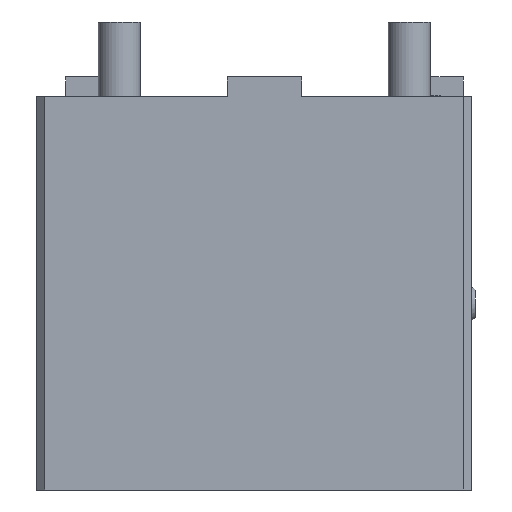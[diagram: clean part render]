
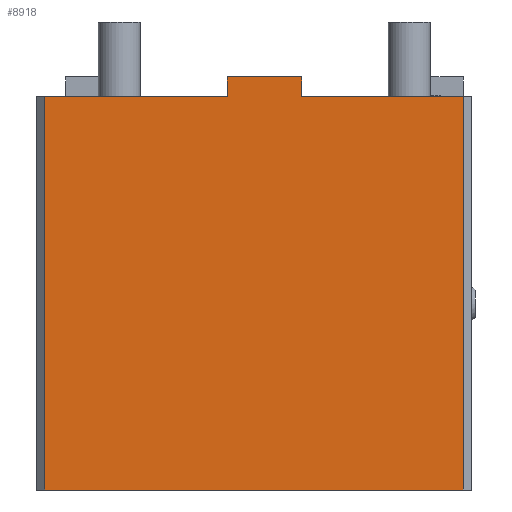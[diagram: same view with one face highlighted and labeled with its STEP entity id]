
A CAD part, front view. The second image highlights one B-rep face of the part: STEP entity #8918.
In plain terms, the highlighted planar face has unit normal (0, -1, 0).
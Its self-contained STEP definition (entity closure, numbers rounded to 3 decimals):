
#4157=ORIENTED_EDGE('',*,*,#5780,.T.);
#4158=ORIENTED_EDGE('',*,*,#5783,.F.);
#4159=ORIENTED_EDGE('',*,*,#5784,.F.);
#4160=ORIENTED_EDGE('',*,*,#5786,.T.);
#4161=ORIENTED_EDGE('',*,*,#5787,.F.);
#4162=ORIENTED_EDGE('',*,*,#5788,.T.);
#4163=ORIENTED_EDGE('',*,*,#5789,.T.);
#4164=ORIENTED_EDGE('',*,*,#5790,.T.);
#4938=VECTOR('',#6700,1.);
#4941=VECTOR('',#6705,1.);
#4942=VECTOR('',#6708,1.);
#4944=VECTOR('',#6712,1.);
#4945=VECTOR('',#6713,1.);
#4946=VECTOR('',#6714,1.);
#4947=VECTOR('',#6715,1.);
#4948=VECTOR('',#6716,1.);
#5222=LINE('',#7605,#4938);
#5225=LINE('',#7610,#4941);
#5226=LINE('',#7613,#4942);
#5228=LINE('',#7617,#4944);
#5229=LINE('',#7619,#4945);
#5230=LINE('',#7621,#4946);
#5231=LINE('',#7623,#4947);
#5232=LINE('',#7624,#4948);
#5505=VERTEX_POINT('',#7602);
#5506=VERTEX_POINT('',#7604);
#5507=VERTEX_POINT('',#7608);
#5508=VERTEX_POINT('',#7612);
#5509=VERTEX_POINT('',#7616);
#5510=VERTEX_POINT('',#7618);
#5511=VERTEX_POINT('',#7620);
#5512=VERTEX_POINT('',#7622);
#5780=EDGE_CURVE('',#5506,#5505,#5222,.T.);
#5783=EDGE_CURVE('',#5507,#5505,#5225,.T.);
#5784=EDGE_CURVE('',#5508,#5507,#5226,.T.);
#5786=EDGE_CURVE('',#5508,#5509,#5228,.T.);
#5787=EDGE_CURVE('',#5510,#5509,#5229,.T.);
#5788=EDGE_CURVE('',#5510,#5511,#5230,.T.);
#5789=EDGE_CURVE('',#5511,#5512,#5231,.T.);
#5790=EDGE_CURVE('',#5512,#5506,#5232,.T.);
#6172=EDGE_LOOP('',(#4157,#4158,#4159,#4160,#4161,#4162,#4163,#4164));
#6430=FACE_BOUND('',#6172,.T.);
#6700=DIRECTION('',(0.,0.,4.75));
#6705=DIRECTION('',(18.,0.,0.));
#6708=DIRECTION('',(0.,0.,4.75));
#6710=DIRECTION('',(0.,-1.,0.));
#6711=DIRECTION('',(-1.,0.,0.));
#6712=DIRECTION('',(-44.,0.,0.));
#6713=DIRECTION('',(0.,0.,95.));
#6714=DIRECTION('',(101.,0.,0.));
#6715=DIRECTION('',(0.,0.,95.));
#6716=DIRECTION('',(-39.,0.,0.));
#7602=CARTESIAN_POINT('',(9.,-48.,4.75));
#7604=CARTESIAN_POINT('',(9.,-48.,0.));
#7605=CARTESIAN_POINT('',(9.,-48.,0.));
#7608=CARTESIAN_POINT('',(-9.,-48.,4.75));
#7610=CARTESIAN_POINT('',(-9.,-48.,4.75));
#7612=CARTESIAN_POINT('',(-9.,-48.,0.));
#7613=CARTESIAN_POINT('',(-9.,-48.,0.));
#7615=CARTESIAN_POINT('',(9.,-48.,-5.));
#7616=CARTESIAN_POINT('',(-53.,-48.,0.));
#7617=CARTESIAN_POINT('',(-9.,-48.,0.));
#7618=CARTESIAN_POINT('',(-53.,-48.,-95.));
#7619=CARTESIAN_POINT('',(-53.,-48.,-95.));
#7620=CARTESIAN_POINT('',(48.,-48.,-95.));
#7621=CARTESIAN_POINT('',(-53.,-48.,-95.));
#7622=CARTESIAN_POINT('',(48.,-48.,0.));
#7623=CARTESIAN_POINT('',(48.,-48.,-95.));
#7624=CARTESIAN_POINT('',(48.,-48.,0.));
#8455=AXIS2_PLACEMENT_3D('',#7615,#6710,#6711);
#8762=PLANE('',#8455);
#8918=ADVANCED_FACE('',(#6430),#8762,.T.);
